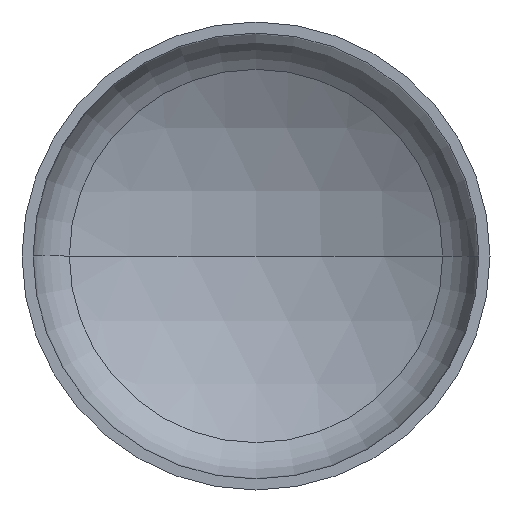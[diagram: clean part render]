
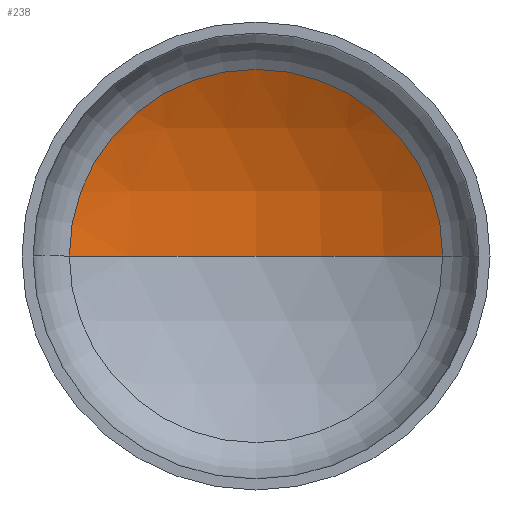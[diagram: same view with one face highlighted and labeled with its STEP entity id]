
A CAD part, front view. The second image highlights one B-rep face of the part: STEP entity #238.
In plain terms, the highlighted spherical face has radius 1760 mm.
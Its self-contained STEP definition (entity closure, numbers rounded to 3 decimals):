
#1 = AXIS2_PLACEMENT_3D ( 'NONE', #295, #123, #323 ) ;
#8 = AXIS2_PLACEMENT_3D ( 'NONE', #402, #237, #39 ) ;
#12 = VERTEX_POINT ( 'NONE', #59 ) ;
#22 = CIRCLE ( 'NONE', #45, 877.521 ) ;
#27 = DIRECTION ( 'NONE',  ( 1., 0., 0. ) ) ;
#31 = CARTESIAN_POINT ( 'NONE',  ( 0., 649.091, 0. ) ) ;
#35 = AXIS2_PLACEMENT_3D ( 'NONE', #256, #144, #344 ) ;
#39 = DIRECTION ( 'NONE',  ( -1., 0., 0. ) ) ;
#45 = AXIS2_PLACEMENT_3D ( 'NONE', #101, #53, #27 ) ;
#53 = DIRECTION ( 'NONE',  ( 0., -1., 0. ) ) ;
#59 = CARTESIAN_POINT ( 'NONE',  ( -877.521, 414.725, 0. ) ) ;
#77 = CIRCLE ( 'NONE', #1, 1760. ) ;
#101 = CARTESIAN_POINT ( 'NONE',  ( 0., 414.725, 0. ) ) ;
#108 = EDGE_CURVE ( 'NONE', #143, #12, #22, .T. ) ;
#123 = DIRECTION ( 'NONE',  ( 0., 0., 1. ) ) ;
#143 = VERTEX_POINT ( 'NONE', #309 ) ;
#144 = DIRECTION ( 'NONE',  ( 0., 0., -1. ) ) ;
#156 = CIRCLE ( 'NONE', #8, 1760. ) ;
#163 = ORIENTED_EDGE ( 'NONE', *, *, #328, .T. ) ;
#174 = VERTEX_POINT ( 'NONE', #31 ) ;
#184 = SPHERICAL_SURFACE ( 'NONE', #35, 1760. ) ;
#230 = ORIENTED_EDGE ( 'NONE', *, *, #331, .F. ) ;
#237 = DIRECTION ( 'NONE',  ( 0., 0., -1. ) ) ;
#238 = ADVANCED_FACE ( 'NONE', ( #334 ), #184, .F. ) ;
#241 = EDGE_LOOP ( 'NONE', ( #230, #163, #343 ) ) ;
#256 = CARTESIAN_POINT ( 'NONE',  ( 0., -1110.909, 0. ) ) ;
#295 = CARTESIAN_POINT ( 'NONE',  ( 0., -1110.909, 0. ) ) ;
#309 = CARTESIAN_POINT ( 'NONE',  ( 877.521, 414.725, 0. ) ) ;
#323 = DIRECTION ( 'NONE',  ( 1., 0., 0. ) ) ;
#328 = EDGE_CURVE ( 'NONE', #174, #143, #156, .T. ) ;
#331 = EDGE_CURVE ( 'NONE', #174, #12, #77, .T. ) ;
#334 = FACE_OUTER_BOUND ( 'NONE', #241, .T. ) ;
#343 = ORIENTED_EDGE ( 'NONE', *, *, #108, .T. ) ;
#344 = DIRECTION ( 'NONE',  ( -1., 0., 0. ) ) ;
#402 = CARTESIAN_POINT ( 'NONE',  ( 0., -1110.909, 0. ) ) ;
